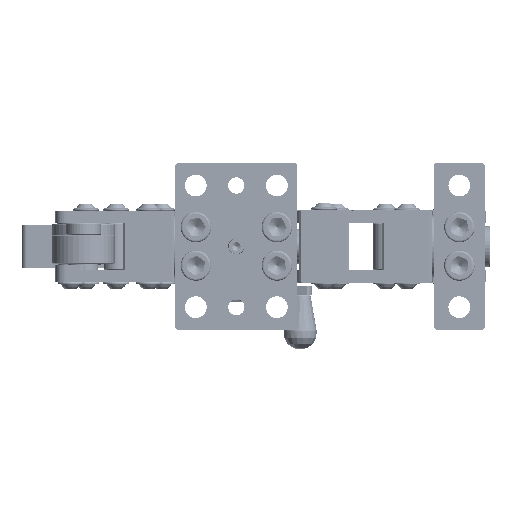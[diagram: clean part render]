
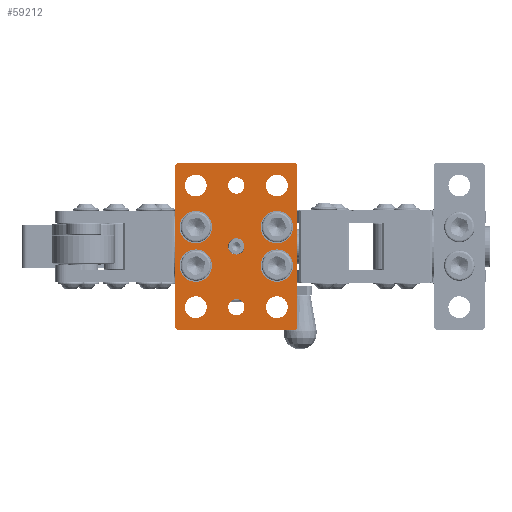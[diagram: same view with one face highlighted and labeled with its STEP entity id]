
A CAD part, left-side view. The second image highlights one B-rep face of the part: STEP entity #59212.
In plain terms, the highlighted planar face has unit normal (-1, 0, 0) as drawn and (0, 0, -1) by its records, which use the part's own axes.
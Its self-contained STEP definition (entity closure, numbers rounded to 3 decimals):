
#4513=FACE_BOUND('',#13173,.T.);
#4514=FACE_BOUND('',#13174,.T.);
#4515=FACE_BOUND('',#13175,.T.);
#4516=FACE_BOUND('',#13176,.T.);
#4517=FACE_BOUND('',#13177,.T.);
#4518=FACE_BOUND('',#13178,.T.);
#4519=FACE_BOUND('',#13179,.T.);
#4520=FACE_BOUND('',#13180,.T.);
#4521=FACE_BOUND('',#13181,.T.);
#4522=FACE_BOUND('',#13182,.T.);
#4523=FACE_BOUND('',#13183,.T.);
#6339=PLANE('',#62399);
#9300=FACE_OUTER_BOUND('',#13172,.T.);
#13172=EDGE_LOOP('',(#53494,#53495,#53496,#53497,#53498,#53499,#53500,#53501));
#13173=EDGE_LOOP('',(#53502));
#13174=EDGE_LOOP('',(#53503));
#13175=EDGE_LOOP('',(#53504));
#13176=EDGE_LOOP('',(#53505));
#13177=EDGE_LOOP('',(#53506));
#13178=EDGE_LOOP('',(#53507));
#13179=EDGE_LOOP('',(#53508));
#13180=EDGE_LOOP('',(#53509));
#13181=EDGE_LOOP('',(#53510));
#13182=EDGE_LOOP('',(#53511));
#13183=EDGE_LOOP('',(#53512));
#18776=LINE('',#101540,#24327);
#18783=LINE('',#101552,#24334);
#18789=LINE('',#101564,#24340);
#18791=LINE('',#101568,#24342);
#18793=LINE('',#101574,#24344);
#18795=LINE('',#101578,#24346);
#18800=LINE('',#101586,#24351);
#18803=LINE('',#101637,#24354);
#24327=VECTOR('',#72799,2.828);
#24334=VECTOR('',#72808,161.);
#24340=VECTOR('',#72818,2.828);
#24342=VECTOR('',#72822,116.);
#24344=VECTOR('',#72828,2.828);
#24346=VECTOR('',#72832,161.);
#24351=VECTOR('',#72839,2.828);
#24354=VECTOR('',#72906,116.);
#25594=CIRCLE('',#62325,8.05);
#25597=CIRCLE('',#62329,8.05);
#25598=CIRCLE('',#62331,8.05);
#25601=CIRCLE('',#62337,10.75);
#25605=CIRCLE('',#62344,10.75);
#25609=CIRCLE('',#62351,10.75);
#25612=CIRCLE('',#62357,10.75);
#25619=CIRCLE('',#62378,16.);
#25622=CIRCLE('',#62384,16.);
#25625=CIRCLE('',#62390,16.);
#25628=CIRCLE('',#62396,16.);
#30434=VERTEX_POINT('',#101481);
#30437=VERTEX_POINT('',#101488);
#30438=VERTEX_POINT('',#101491);
#30441=VERTEX_POINT('',#101500);
#30445=VERTEX_POINT('',#101511);
#30449=VERTEX_POINT('',#101522);
#30452=VERTEX_POINT('',#101531);
#30455=VERTEX_POINT('',#101537);
#30456=VERTEX_POINT('',#101539);
#30460=VERTEX_POINT('',#101550);
#30464=VERTEX_POINT('',#101562);
#30465=VERTEX_POINT('',#101566);
#30466=VERTEX_POINT('',#101571);
#30467=VERTEX_POINT('',#101573);
#30468=VERTEX_POINT('',#101577);
#30477=VERTEX_POINT('',#101606);
#30480=VERTEX_POINT('',#101615);
#30483=VERTEX_POINT('',#101624);
#30486=VERTEX_POINT('',#101633);
#38276=EDGE_CURVE('',#30434,#30434,#25594,.T.);
#38279=EDGE_CURVE('',#30437,#30437,#25597,.T.);
#38280=EDGE_CURVE('',#30438,#30438,#25598,.T.);
#38283=EDGE_CURVE('',#30441,#30441,#25601,.T.);
#38287=EDGE_CURVE('',#30445,#30445,#25605,.T.);
#38291=EDGE_CURVE('',#30449,#30449,#25609,.T.);
#38294=EDGE_CURVE('',#30452,#30452,#25612,.T.);
#38297=EDGE_CURVE('',#30455,#30456,#18776,.T.);
#38304=EDGE_CURVE('',#30455,#30460,#18783,.T.);
#38310=EDGE_CURVE('',#30464,#30460,#18789,.T.);
#38312=EDGE_CURVE('',#30464,#30465,#18791,.T.);
#38314=EDGE_CURVE('',#30466,#30467,#18793,.T.);
#38316=EDGE_CURVE('',#30468,#30467,#18795,.T.);
#38321=EDGE_CURVE('',#30468,#30465,#18800,.T.);
#38330=EDGE_CURVE('',#30477,#30477,#25619,.T.);
#38333=EDGE_CURVE('',#30480,#30480,#25622,.T.);
#38336=EDGE_CURVE('',#30483,#30483,#25625,.T.);
#38339=EDGE_CURVE('',#30486,#30486,#25628,.T.);
#38340=EDGE_CURVE('',#30466,#30456,#18803,.T.);
#53494=ORIENTED_EDGE('',*,*,#38297,.F.);
#53495=ORIENTED_EDGE('',*,*,#38304,.T.);
#53496=ORIENTED_EDGE('',*,*,#38310,.F.);
#53497=ORIENTED_EDGE('',*,*,#38312,.T.);
#53498=ORIENTED_EDGE('',*,*,#38321,.F.);
#53499=ORIENTED_EDGE('',*,*,#38316,.T.);
#53500=ORIENTED_EDGE('',*,*,#38314,.F.);
#53501=ORIENTED_EDGE('',*,*,#38340,.T.);
#53502=ORIENTED_EDGE('',*,*,#38276,.T.);
#53503=ORIENTED_EDGE('',*,*,#38279,.T.);
#53504=ORIENTED_EDGE('',*,*,#38280,.T.);
#53505=ORIENTED_EDGE('',*,*,#38283,.T.);
#53506=ORIENTED_EDGE('',*,*,#38287,.T.);
#53507=ORIENTED_EDGE('',*,*,#38291,.T.);
#53508=ORIENTED_EDGE('',*,*,#38294,.T.);
#53509=ORIENTED_EDGE('',*,*,#38330,.T.);
#53510=ORIENTED_EDGE('',*,*,#38333,.T.);
#53511=ORIENTED_EDGE('',*,*,#38336,.T.);
#53512=ORIENTED_EDGE('',*,*,#38339,.T.);
#59212=ADVANCED_FACE('',(#9300,#4513,#4514,#4515,#4516,#4517,#4518,#4519,
#4520,#4521,#4522,#4523),#6339,.F.);
#62325=AXIS2_PLACEMENT_3D('',#101482,#72729,#72730);
#62329=AXIS2_PLACEMENT_3D('',#101489,#72737,#72738);
#62331=AXIS2_PLACEMENT_3D('',#101492,#72741,#72742);
#62337=AXIS2_PLACEMENT_3D('',#101501,#72753,#72754);
#62344=AXIS2_PLACEMENT_3D('',#101512,#72767,#72768);
#62351=AXIS2_PLACEMENT_3D('',#101523,#72781,#72782);
#62357=AXIS2_PLACEMENT_3D('',#101532,#72793,#72794);
#62378=AXIS2_PLACEMENT_3D('',#101607,#72864,#72865);
#62384=AXIS2_PLACEMENT_3D('',#101616,#72876,#72877);
#62390=AXIS2_PLACEMENT_3D('',#101625,#72888,#72889);
#62396=AXIS2_PLACEMENT_3D('',#101634,#72900,#72901);
#62399=AXIS2_PLACEMENT_3D('',#101638,#72907,#72908);
#72729=DIRECTION('center_axis',(0.,0.,1.));
#72730=DIRECTION('ref_axis',(1.,0.,0.));
#72737=DIRECTION('center_axis',(0.,0.,1.));
#72738=DIRECTION('ref_axis',(1.,0.,0.));
#72741=DIRECTION('center_axis',(0.,0.,1.));
#72742=DIRECTION('ref_axis',(1.,0.,0.));
#72753=DIRECTION('center_axis',(0.,0.,1.));
#72754=DIRECTION('ref_axis',(1.,0.,0.));
#72767=DIRECTION('center_axis',(0.,0.,1.));
#72768=DIRECTION('ref_axis',(1.,0.,0.));
#72781=DIRECTION('center_axis',(0.,0.,1.));
#72782=DIRECTION('ref_axis',(1.,0.,0.));
#72793=DIRECTION('center_axis',(0.,0.,1.));
#72794=DIRECTION('ref_axis',(1.,0.,0.));
#72799=DIRECTION('',(-0.707,-0.707,0.));
#72808=DIRECTION('',(1.,0.,0.));
#72818=DIRECTION('',(-0.707,0.707,0.));
#72822=DIRECTION('',(0.,-1.,0.));
#72828=DIRECTION('',(0.707,-0.707,0.));
#72832=DIRECTION('',(-1.,0.,0.));
#72839=DIRECTION('',(0.707,0.707,0.));
#72864=DIRECTION('center_axis',(0.,0.,1.));
#72865=DIRECTION('ref_axis',(-1.,0.,0.));
#72876=DIRECTION('center_axis',(0.,0.,1.));
#72877=DIRECTION('ref_axis',(-1.,0.,0.));
#72888=DIRECTION('center_axis',(0.,0.,1.));
#72889=DIRECTION('ref_axis',(-1.,0.,0.));
#72900=DIRECTION('center_axis',(0.,0.,1.));
#72901=DIRECTION('ref_axis',(-1.,0.,0.));
#72906=DIRECTION('',(0.,1.,0.));
#72907=DIRECTION('center_axis',(0.,0.,1.));
#72908=DIRECTION('ref_axis',(1.,0.,0.));
#101481=CARTESIAN_POINT('',(-8.05,0.,0.));
#101482=CARTESIAN_POINT('Origin',(0.,0.,0.));
#101488=CARTESIAN_POINT('',(-51.95,0.,0.));
#101489=CARTESIAN_POINT('Origin',(-60.,0.,0.));
#101491=CARTESIAN_POINT('',(68.05,0.,0.));
#101492=CARTESIAN_POINT('Origin',(60.,0.,0.));
#101500=CARTESIAN_POINT('',(70.75,-40.,0.));
#101501=CARTESIAN_POINT('Origin',(60.,-40.,0.));
#101511=CARTESIAN_POINT('',(-49.25,40.,0.));
#101512=CARTESIAN_POINT('Origin',(-60.,40.,0.));
#101522=CARTESIAN_POINT('',(-49.25,-40.,0.));
#101523=CARTESIAN_POINT('Origin',(-60.,-40.,0.));
#101531=CARTESIAN_POINT('',(70.75,40.,0.));
#101532=CARTESIAN_POINT('Origin',(60.,40.,0.));
#101537=CARTESIAN_POINT('',(-80.5,60.,0.));
#101539=CARTESIAN_POINT('',(-82.5,58.,0.));
#101540=CARTESIAN_POINT('',(-75.875,64.625,0.));
#101550=CARTESIAN_POINT('',(80.5,60.,0.));
#101552=CARTESIAN_POINT('',(-82.5,60.,0.));
#101562=CARTESIAN_POINT('',(82.5,58.,0.));
#101564=CARTESIAN_POINT('',(75.875,64.625,0.));
#101566=CARTESIAN_POINT('',(82.5,-58.,0.));
#101568=CARTESIAN_POINT('',(82.5,60.,0.));
#101571=CARTESIAN_POINT('',(-82.5,-58.,0.));
#101573=CARTESIAN_POINT('',(-80.5,-60.,0.));
#101574=CARTESIAN_POINT('',(-75.875,-64.625,0.));
#101577=CARTESIAN_POINT('',(80.5,-60.,0.));
#101578=CARTESIAN_POINT('',(82.5,-60.,0.));
#101586=CARTESIAN_POINT('',(75.875,-64.625,0.));
#101606=CARTESIAN_POINT('',(-35.,-40.,0.));
#101607=CARTESIAN_POINT('Origin',(-19.,-40.,0.));
#101615=CARTESIAN_POINT('',(3.,40.,0.));
#101616=CARTESIAN_POINT('Origin',(19.,40.,0.));
#101624=CARTESIAN_POINT('',(3.,-40.,0.));
#101625=CARTESIAN_POINT('Origin',(19.,-40.,0.));
#101633=CARTESIAN_POINT('',(-35.,40.,0.));
#101634=CARTESIAN_POINT('Origin',(-19.,40.,0.));
#101637=CARTESIAN_POINT('',(-82.5,-60.,0.));
#101638=CARTESIAN_POINT('Origin',(0.,0.,0.));
